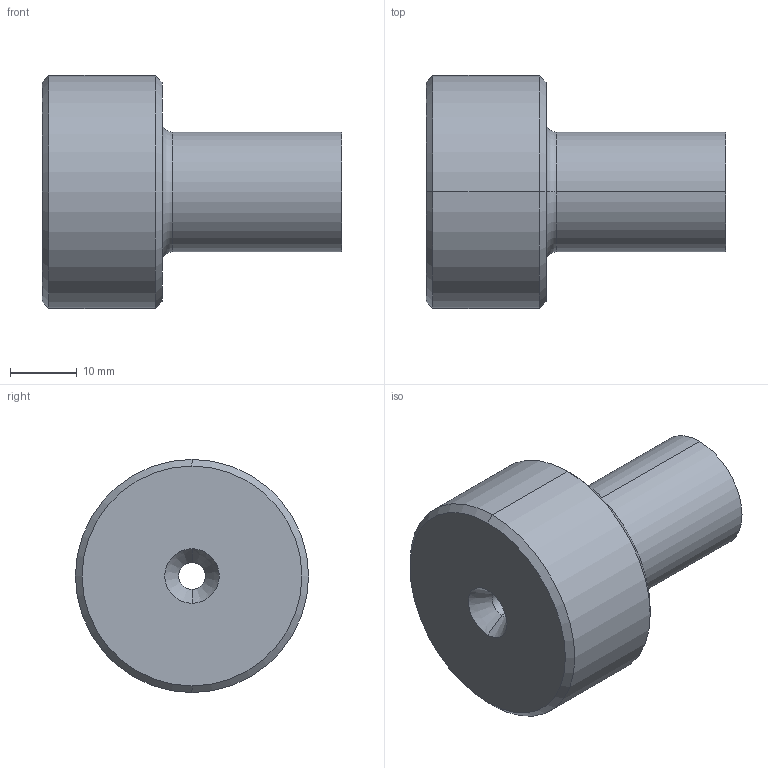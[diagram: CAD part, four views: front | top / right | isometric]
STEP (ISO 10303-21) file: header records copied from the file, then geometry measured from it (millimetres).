
FILE_DESCRIPTION (( 'STEP AP214' ), '1' );
FILE_NAME ('BRB7-027.STEP', '2020-01-29T09:56:21', ( 'August' ), ( '' ), 'SwSTEP 2.0', 'SolidWorks 2018', '' );
FILE_SCHEMA (( 'AUTOMOTIVE_DESIGN' ));
Length unit declared in the file: millimetre
Products named in the file (1): BRB7-027
Bounding box: 45 x 35 x 35 mm (x, y, z)
Volume: 23273.1 mm3; surface area: 5881.9 mm2
Topology: 1 solids, 1 shells, 17 faces, 34 edges, 20 vertices
Faces by surface type: cone 8, cylinder 4, plane 3, torus 2
Entity records: 484 total; most frequent: DIRECTION 92, CARTESIAN_POINT 72, ORIENTED_EDGE 68, AXIS2_PLACEMENT_3D 40, EDGE_CURVE 34, CIRCLE 22, EDGE_LOOP 20, VERTEX_POINT 20
